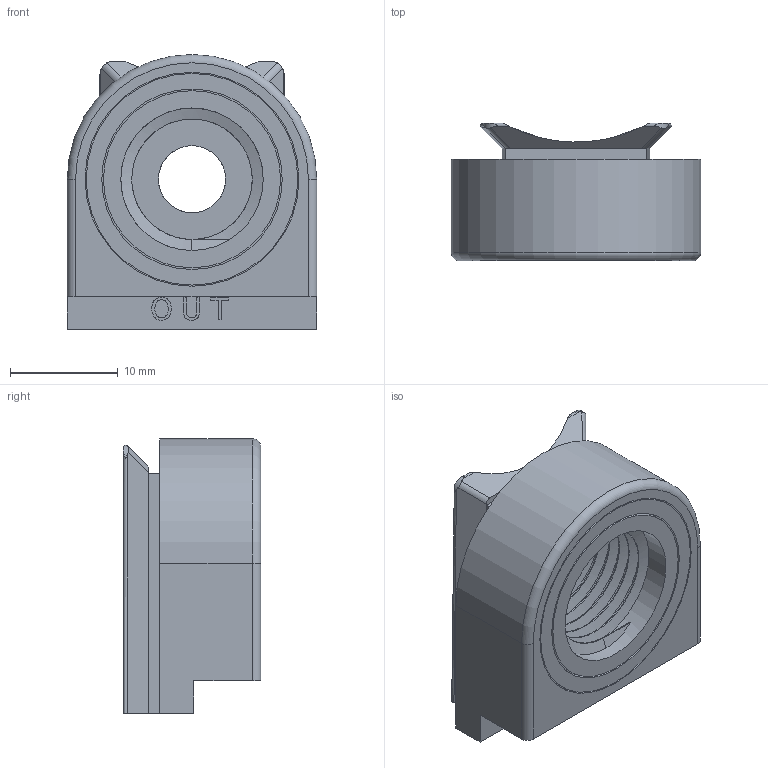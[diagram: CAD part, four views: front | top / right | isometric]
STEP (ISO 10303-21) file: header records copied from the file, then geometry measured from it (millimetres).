
FILE_DESCRIPTION(/* description */ (''),/* implementation_level */ '2;1');
FILE_NAME(/* name */ 'K:\Normteile INVENTOR\Air-Logic\Regulators\NR4000\19672-NR 4___ 2 1''4-18 NPT Threads Out-Isoliert.ipt.stp',/* time_stamp */ '2020-05-27T10:49:59+02:00',/* author */ ('Paul'),/* organization */ (''),/* preprocessor_version */ 'ST-DEVELOPER v18',/* originating_system */ 'Autodesk Inventor 2020',/* authorisation */ '');
FILE_SCHEMA (('AUTOMOTIVE_DESIGN { 1 0 10303 214 3 1 1 }'));
Length unit declared in the file: inch
Products named in the file (1): 19672-NR 4___ 2 1'4-18 NPT Threads Out-Isoliert
Bounding box: 23.11 x 12.73 x 25.48 mm (x, y, z)
Volume: 4070.1 mm3; surface area: 3064.2 mm2
Topology: 1 solids, 1 shells, 109 faces, 293 edges, 195 vertices
Faces by surface type: plane 47, cylinder 37, bspline 24, torus 1
Full cylindrical faces by diameter (mm): 6.223 x1, 11.163 x5, 13.208 x2, 16.408 x1, 16.717 x1, 19.612 x1, 19.825 x1
Entity records: 5913 total; most frequent: CARTESIAN_POINT 3230, ORIENTED_EDGE 586, DIRECTION 409, EDGE_CURVE 293, VERTEX_POINT 195, LINE 155, VECTOR 155, AXIS2_PLACEMENT_3D 127
